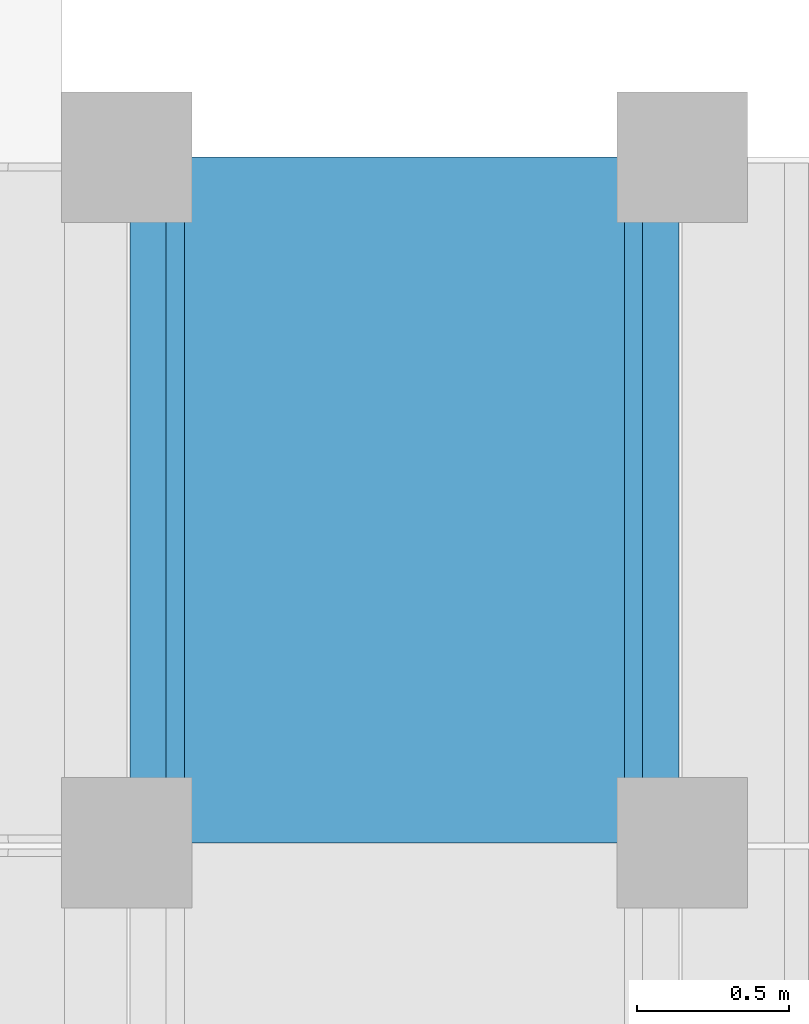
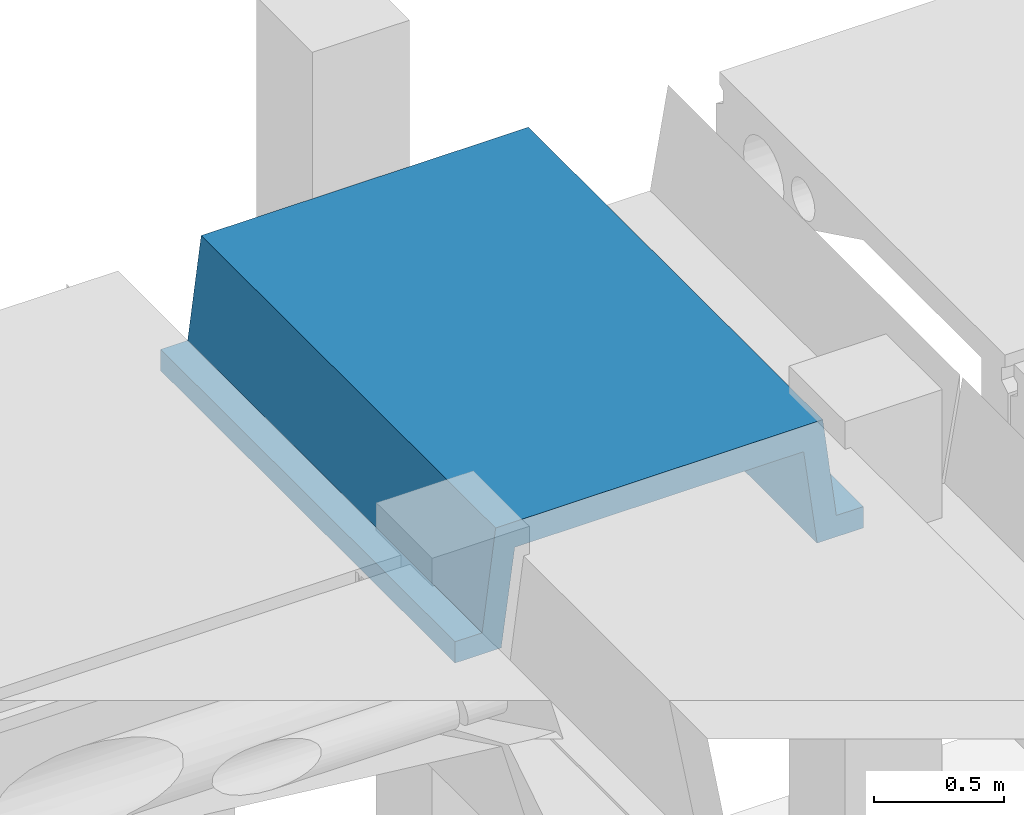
# One storey, part 22 of 25: 1 beam.
"""IFC2X3 building model written with IfcOpenShell, lengths in millimetres."""

from ifc_helpers import new_model, entity, si_unit, converted_unit, derived_unit, direction, frame, origin, place, context, subcontext, project, spatial, polyline, outline, extrude, material, type_object, element, save


model = new_model("IFC2X3")

# Units and contexts
model_context = context("Model", 3, precision=0.01, world=origin(), true_north=direction((6.12303176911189e-17, 1.0)))
body_context = subcontext(model_context, "Body", "Model", "MODEL_VIEW")
ifc_project = project(units=[si_unit("LENGTHUNIT", "METRE", prefix="MILLI"), si_unit("AREAUNIT", "SQUARE_METRE"), si_unit("VOLUMEUNIT", "CUBIC_METRE"), converted_unit("PLANEANGLEUNIT", "DEGREE", entity("IfcRatioMeasure", 0.0174532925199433), si_unit("PLANEANGLEUNIT", "RADIAN"), dimensions=[0, 0, 0, 0, 0, 0, 0]), si_unit("MASSUNIT", "GRAM", prefix="KILO"), derived_unit("MASSDENSITYUNIT", [(si_unit("MASSUNIT", "GRAM", prefix="KILO"), 1), (si_unit("LENGTHUNIT", "METRE"), -3)]), derived_unit("MOMENTOFINERTIAUNIT", [(si_unit("LENGTHUNIT", "METRE"), 4)]), si_unit("TIMEUNIT", "SECOND"), si_unit("FREQUENCYUNIT", "HERTZ"), si_unit("THERMODYNAMICTEMPERATUREUNIT", "DEGREE_CELSIUS"), derived_unit("THERMALTRANSMITTANCEUNIT", [(si_unit("MASSUNIT", "GRAM", prefix="KILO"), 1), (si_unit("THERMODYNAMICTEMPERATUREUNIT", "KELVIN"), -1), (si_unit("TIMEUNIT", "SECOND"), -3)]), derived_unit("VOLUMETRICFLOWRATEUNIT", [(si_unit("LENGTHUNIT", "METRE"), 3), (si_unit("TIMEUNIT", "SECOND"), -1)]), si_unit("ELECTRICCURRENTUNIT", "AMPERE"), si_unit("ELECTRICVOLTAGEUNIT", "VOLT"), si_unit("POWERUNIT", "WATT"), si_unit("FORCEUNIT", "NEWTON", prefix="KILO"), si_unit("ILLUMINANCEUNIT", "LUX"), si_unit("LUMINOUSFLUXUNIT", "LUMEN"), si_unit("LUMINOUSINTENSITYUNIT", "CANDELA"), derived_unit("USERDEFINED", [(si_unit("MASSUNIT", "GRAM", prefix="KILO"), -1), (si_unit("LENGTHUNIT", "METRE"), -2), (si_unit("TIMEUNIT", "SECOND"), 3), (si_unit("LUMINOUSFLUXUNIT", "LUMEN"), 1)]), derived_unit("LINEARVELOCITYUNIT", [(si_unit("LENGTHUNIT", "METRE"), 1), (si_unit("TIMEUNIT", "SECOND"), -1)]), si_unit("PRESSUREUNIT", "PASCAL"), derived_unit("USERDEFINED", [(si_unit("LENGTHUNIT", "METRE"), -2), (si_unit("MASSUNIT", "GRAM", prefix="KILO"), 1), (si_unit("TIMEUNIT", "SECOND"), -2)]), derived_unit("LINEARFORCEUNIT", [(si_unit("MASSUNIT", "GRAM", prefix="KILO"), 1), (si_unit("LENGTHUNIT", "METRE"), 1), (si_unit("TIMEUNIT", "SECOND"), -2), (si_unit("LENGTHUNIT", "METRE"), -1)]), derived_unit("PLANARFORCEUNIT", [(si_unit("MASSUNIT", "GRAM", prefix="KILO"), 1), (si_unit("LENGTHUNIT", "METRE"), 1), (si_unit("TIMEUNIT", "SECOND"), -2), (si_unit("LENGTHUNIT", "METRE"), -2)])], contexts=[model_context])

# Site, building, storey
site_placement = place(None, frame((10627.5135316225, 21939.0796949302, 0.0)))
site = spatial("IfcSite", under=ifc_project, at=site_placement, Name="Default", CompositionType="ELEMENT")
building_placement = place(site_placement, origin())
building = spatial("IfcBuilding", under=site, at=building_placement, CompositionType="ELEMENT")
storey_placement = place(building_placement, origin())
storey = spatial("IfcBuildingStorey", under=building, at=storey_placement, Name="RDC", CompositionType="ELEMENT", Elevation=0.0)

# Beam
ifc_material = material(Name="Concrete, Precast Smooth, Light Grey")
beam_type = type_object("IfcBeamType", Name="Poutre petite:Poutre petite", PredefinedType="NOTDEFINED")
beam_placement = place(storey_placement, frame((52487.4864683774, 14220.9203050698, 3530.0), z_axis=(0.0, 0.0, 1.0), x_axis=(0.0, 1.0, 0.0)))
element("IfcBeam", 1, at=beam_placement, inside=storey, type_object=beam_type, material=ifc_material, Name="Poutre petite:Poutre petite", ObjectType="Poutre petite:Poutre petite", context=body_context, shape_type="SweptSolid", body=[
    extrude(outline(polyline([(103.333217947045, -905.014058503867), (203.333564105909, -905.014058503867), (203.333564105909, -700.0135432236), (-246.666782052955, -640.013497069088), (-246.666782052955, 640.013684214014), (203.333564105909, 700.013730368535), (203.333564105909, 905.013684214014), (103.333217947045, 905.013684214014), (103.333217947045, 785.013684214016), (-366.666782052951, 725.01368421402), (-366.666782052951, -725.013497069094), (103.333217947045, -785.013497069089), (103.333217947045, -905.014058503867)])), frame((0.0, 0.000187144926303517, -366.666782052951), z_axis=(1.0, 0.0, 0.0), x_axis=(0.0, 0.0, -1.0)), (0.0, 0.0, 1.0), 2260.0),
])

save(model, "model.ifc")
